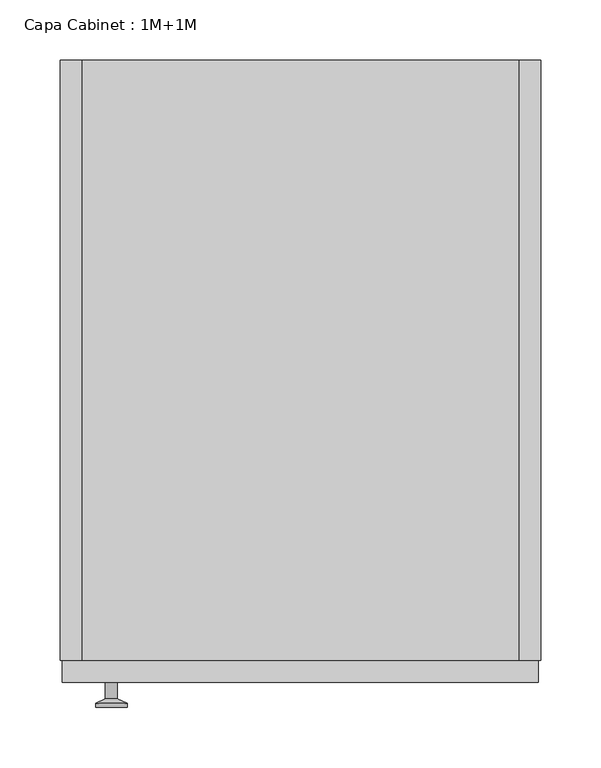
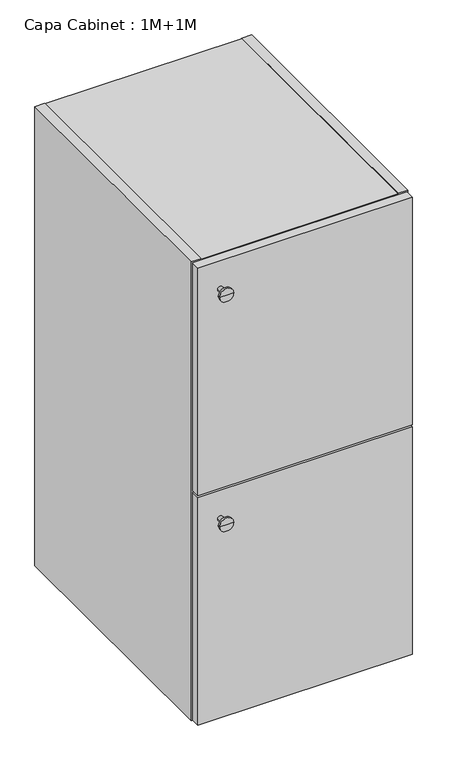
"""IFC4 building model written with IfcOpenShell, lengths in millimetres: furniture geometry, Capa Cabinet : 1M+1M."""

from ifc_helpers import new_model, si_unit, frame, origin, place, context, project, spatial, polyline, circle_curve, outline, extrude, faceted_brep, source, transform, mapped, element, save
from ifc_brep_helpers import plane_surface, cylinder_surface, revolved_surface, advanced_brep


def capa_cabinet_1m_1m_8e859be2(model_context):
    return source(origin(), model_context, "Body", "SolidModel", [
        extrude(outline(polyline([(182.0, 0.0), (-182.0, 0.0), (-182.0, 490.0), (182.0, 490.0), (182.0, 0.0)])), frame((0.0, 0.0, 441.0), z_axis=(0.0, 0.0, 1.0), x_axis=(1.0, 0.0, 0.0)), (0.0, 0.0, 1.0), 14.0),
        faceted_brep([(-182.0, 500.0, 896.0), (-182.0, 500.0, 895.0), (182.0, 500.0, 895.0), (182.0, 500.0, 896.0), (200.0, 500.0, 896.0), (200.0, 500.0, 0.0), (182.0, 500.0, 0.0), (182.0, 500.0, 1.0), (-182.0, 500.0, 1.0), (-182.0, 500.0, 0.0), (-200.0, 500.0, 0.0), (-200.0, 500.0, 896.0), (182.0, 490.0, 19.0), (182.0, 490.0, 877.0), (-182.0, 490.0, 877.0), (-182.0, 490.0, 19.0), (-182.0, 0.0, 896.0), (-200.0, 0.0, 896.0), (-200.0, 0.0, 0.0), (-182.0, 0.0, 0.0), (-182.0, 0.0, 1.0), (182.0, 0.0, 1.0), (182.0, 0.0, 0.0), (200.0, 0.0, 0.0), (200.0, 0.0, 896.0), (182.0, 0.0, 896.0), (182.0, 0.0, 895.0), (-182.0, 0.0, 895.0), (182.0, 0.0, 877.0), (182.0, 0.0, 19.0), (-182.0, 0.0, 19.0), (-182.0, 0.0, 877.0)], [[[0, 1, 2, 3, 4, 5, 6, 7, 8, 9, 10, 11]], [[12, 13, 14, 15]], [[16, 17, 18, 19, 20, 21, 22, 23, 24, 25, 26, 27], [28, 29, 30, 31]], [[17, 16, 0, 11]], [[18, 17, 11, 10]], [[23, 22, 6, 5]], [[24, 23, 5, 4]], [[19, 18, 10, 9]], [[20, 19, 9, 8]], [[21, 20, 8, 7]], [[22, 21, 7, 6]], [[25, 24, 4, 3]], [[26, 25, 3, 2]], [[27, 26, 2, 1]], [[16, 27, 1, 0]], [[29, 28, 13, 12]], [[30, 29, 12, 15]], [[31, 30, 15, 14]], [[28, 31, 14, 13]]]),
        extrude(outline(polyline([(198.0, -18.0), (-198.0, -18.0), (-198.0, 0.0), (198.0, 0.0), (198.0, -18.0)])), frame((0.0, 0.0, 450.0), z_axis=(0.0, 0.0, 1.0), x_axis=(1.0, 0.0, 0.0)), (0.0, 0.0, 1.0), 444.0),
        advanced_brep(
        [(-157.2922597, -18.0, 840.0), (-152.2922597, -18.0, 840.0), (-162.2922597, -18.0, 840.0), (-170.2922597, -38.997134, 840.0), (-144.2922597, -38.997134, 840.0), (-157.2922597, -38.997134, 840.0), (-170.2922597, -35.5419417, 840.0), (-144.2922597, -35.5419417, 840.0), (-162.2922597, -31.8114804, 840.0), (-152.2922597, -31.8114804, 840.0)],
        [
            (0, 1),
            (1, 2, circle_curve(frame((-157.2922597, -18.0, 840.0), z_axis=(0.0, 1.0, 0.0), x_axis=(1.0, 0.0, 0.0)), 5.0)),
            (2, 0),
            (2, 1, circle_curve(frame((-157.2922597, -18.0, 840.0), z_axis=(0.0, 1.0, 0.0), x_axis=(1.0, 0.0, 0.0)), 5.0)),
            (3, 4, circle_curve(frame((-157.2922597, -38.997134, 840.0), z_axis=(0.0, -1.0, 0.0), x_axis=(1.0, 0.0, 0.0)), 13.0)),
            (4, 5),
            (5, 3),
            (4, 3, circle_curve(frame((-157.2922597, -38.997134, 840.0), z_axis=(0.0, -1.0, 0.0), x_axis=(1.0, 0.0, 0.0)), 13.0)),
            (6, 7, circle_curve(frame((-157.2922597, -35.5419417, 840.0), z_axis=(0.0, -1.0, 0.0), x_axis=(1.0, 0.0, 0.0)), 13.0)),
            (7, 4),
            (3, 6),
            (7, 6, circle_curve(frame((-157.2922597, -35.5419417, 840.0), z_axis=(0.0, -1.0, 0.0), x_axis=(1.0, 0.0, 0.0)), 13.0)),
            (8, 9, circle_curve(frame((-157.2922597, -31.8114804, 840.0), z_axis=(0.0, -1.0, 0.0), x_axis=(1.0, 0.0, 0.0)), 5.0)),
            (9, 7),
            (6, 8),
            (9, 8, circle_curve(frame((-157.2922597, -31.8114804, 840.0), z_axis=(0.0, -1.0, 0.0), x_axis=(1.0, 0.0, 0.0)), 5.0)),
            (1, 9),
            (8, 2),
        ],
        [
            plane_surface(frame((-157.2922597, -18.0, 840.0), z_axis=(0.0, 1.0, 0.0), x_axis=(1.0, 0.0, 0.0))),
            plane_surface(frame((-157.2922597, -38.997134, 840.0), z_axis=(0.0, -1.0, 0.0), x_axis=(1.0, 0.0, 0.0))),
            cylinder_surface(frame((-157.2922597, -38.997134, 840.0), z_axis=(0.0, 1.0, 0.0), x_axis=(1.0, 0.0, 0.0)), 13.0),
            revolved_surface(polyline([(-144.2922597, -35.5419417, 840.0), (-152.2922597, -31.8114804, 840.0)]), (-157.2922597, -38.997134, 840.0), (0.0, 1.0, 0.0)),
            cylinder_surface(frame((-157.2922597, -38.997134, 840.0), z_axis=(0.0, 1.0, 0.0), x_axis=(1.0, 0.0, 0.0)), 5.0),
        ],
        [
            (0, [[1, 2, 3]]),
            (0, [[-3, 4, -1]]),
            (1, [[5, 6, 7]]),
            (1, [[8, -7, -6]]),
            (2, [[9, 10, -5, 11]]),
            (2, [[12, -11, -8, -10]]),
            (3, [[13, 14, -9, 15]]),
            (3, [[16, -15, -12, -14]]),
            (4, [[-2, 17, -13, 18]]),
            (4, [[-4, -18, -16, -17]]),
        ],
    ),
        extrude(outline(polyline([(198.0, -18.0), (-198.0, -18.0), (-198.0, 0.0), (198.0, 0.0), (198.0, -18.0)])), frame((0.0, 0.0, 2.0), z_axis=(0.0, 0.0, 1.0), x_axis=(1.0, 0.0, 0.0)), (0.0, 0.0, 1.0), 444.0),
        advanced_brep(
        [(-157.2922597, -18.0, 392.0), (-152.2922597, -18.0, 392.0), (-162.2922597, -18.0, 392.0), (-170.2922597, -38.997134, 392.0), (-144.2922597, -38.997134, 392.0), (-157.2922597, -38.997134, 392.0), (-170.2922597, -35.5419417, 392.0), (-144.2922597, -35.5419417, 392.0), (-162.2922597, -31.8114804, 392.0), (-152.2922597, -31.8114804, 392.0)],
        [
            (0, 1),
            (1, 2, circle_curve(frame((-157.2922597, -18.0, 392.0), z_axis=(0.0, 1.0, 0.0), x_axis=(1.0, 0.0, 0.0)), 5.0)),
            (2, 0),
            (2, 1, circle_curve(frame((-157.2922597, -18.0, 392.0), z_axis=(0.0, 1.0, 0.0), x_axis=(1.0, 0.0, 0.0)), 5.0)),
            (3, 4, circle_curve(frame((-157.2922597, -38.997134, 392.0), z_axis=(0.0, -1.0, 0.0), x_axis=(1.0, 0.0, 0.0)), 13.0)),
            (4, 5),
            (5, 3),
            (4, 3, circle_curve(frame((-157.2922597, -38.997134, 392.0), z_axis=(0.0, -1.0, 0.0), x_axis=(1.0, 0.0, 0.0)), 13.0)),
            (6, 7, circle_curve(frame((-157.2922597, -35.5419417, 392.0), z_axis=(0.0, -1.0, 0.0), x_axis=(1.0, 0.0, 0.0)), 13.0)),
            (7, 4),
            (3, 6),
            (7, 6, circle_curve(frame((-157.2922597, -35.5419417, 392.0), z_axis=(0.0, -1.0, 0.0), x_axis=(1.0, 0.0, 0.0)), 13.0)),
            (8, 9, circle_curve(frame((-157.2922597, -31.8114804, 392.0), z_axis=(0.0, -1.0, 0.0), x_axis=(1.0, 0.0, 0.0)), 5.0)),
            (9, 7),
            (6, 8),
            (9, 8, circle_curve(frame((-157.2922597, -31.8114804, 392.0), z_axis=(0.0, -1.0, 0.0), x_axis=(1.0, 0.0, 0.0)), 5.0)),
            (1, 9),
            (8, 2),
        ],
        [
            plane_surface(frame((-157.2922597, -18.0, 392.0), z_axis=(0.0, 1.0, 0.0), x_axis=(1.0, 0.0, 0.0))),
            plane_surface(frame((-157.2922597, -38.997134, 392.0), z_axis=(0.0, -1.0, 0.0), x_axis=(1.0, 0.0, 0.0))),
            cylinder_surface(frame((-157.2922597, -38.997134, 392.0), z_axis=(0.0, 1.0, 0.0), x_axis=(1.0, 0.0, 0.0)), 13.0),
            revolved_surface(polyline([(-144.2922597, -35.5419417, 392.0), (-152.2922597, -31.8114804, 392.0)]), (-157.2922597, -38.997134, 392.0), (0.0, 1.0, 0.0)),
            cylinder_surface(frame((-157.2922597, -38.997134, 392.0), z_axis=(0.0, 1.0, 0.0), x_axis=(1.0, 0.0, 0.0)), 5.0),
        ],
        [
            (0, [[1, 2, 3]]),
            (0, [[-3, 4, -1]]),
            (1, [[5, 6, 7]]),
            (1, [[8, -7, -6]]),
            (2, [[9, 10, -5, 11]]),
            (2, [[12, -11, -8, -10]]),
            (3, [[13, 14, -9, 15]]),
            (3, [[16, -15, -12, -14]]),
            (4, [[-2, 17, -13, 18]]),
            (4, [[-4, -18, -16, -17]]),
        ],
    ),
    ])


if __name__ == "__main__":
    model = new_model("IFC4")
    model_context = context("Model", 3, world=origin())
    ifc_project = project(units=[si_unit("LENGTHUNIT", "METRE", prefix="MILLI")], contexts=[model_context])
    site = spatial("IfcSite", under=ifc_project)
    building = spatial("IfcBuilding", under=site)
    placement = place(None, origin())
    capa_cabinet_1m_1m_shape = capa_cabinet_1m_1m_8e859be2(model_context)
    element("IfcFurniture", 1, ObjectType="Capa Cabinet : 1M+1M", at=placement, inside=building, context=model_context, shape_type="MappedRepresentation", body=[
        mapped(capa_cabinet_1m_1m_shape, transform((0.0, 0.0, 0.0), x_axis=(1.0, 0.0, 0.0), y_axis=(0.0, 1.0, 0.0), z_axis=(0.0, 0.0, 1.0))),
    ])
    save(model, "model.ifc")
